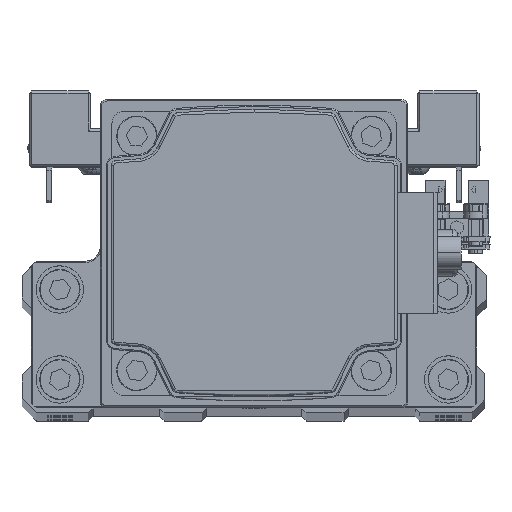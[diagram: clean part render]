
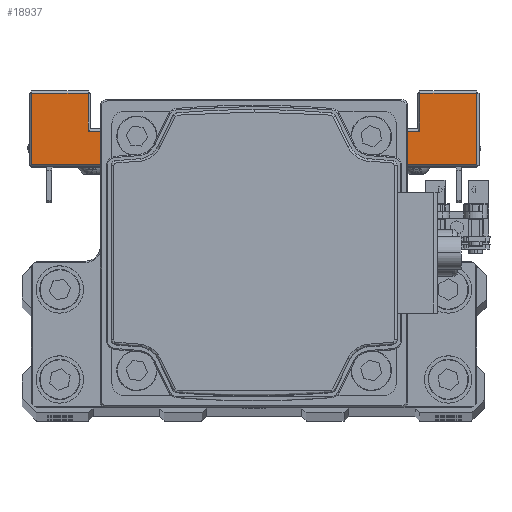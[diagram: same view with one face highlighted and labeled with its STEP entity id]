
A CAD part, top view. The second image highlights one B-rep face of the part: STEP entity #18937.
In plain terms, the highlighted planar face has unit normal (0, 0, 1) as drawn and (1, 0, 0) by its records, which use the part's own axes.
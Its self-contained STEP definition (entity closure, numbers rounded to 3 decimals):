
#62 = LINE ( 'NONE', #13595, #12709 ) ;
#311 = VERTEX_POINT ( 'NONE', #18056 ) ;
#332 = CARTESIAN_POINT ( 'NONE',  ( 47., 23., -20. ) ) ;
#531 = LINE ( 'NONE', #14053, #26017 ) ;
#848 = CARTESIAN_POINT ( 'NONE',  ( 47., 8., -20. ) ) ;
#2241 = VERTEX_POINT ( 'NONE', #29447 ) ;
#2433 = LINE ( 'NONE', #15939, #29425 ) ;
#2583 = LINE ( 'NONE', #16101, #42916 ) ;
#2674 = LINE ( 'NONE', #16198, #18468 ) ;
#2955 = CARTESIAN_POINT ( 'NONE',  ( 47., 8., -47. ) ) ;
#3281 = EDGE_CURVE ( 'NONE', #34185, #34260, #6783, .T. ) ;
#4917 = DIRECTION ( 'NONE',  ( 0., -1., 0. ) ) ;
#4931 = CARTESIAN_POINT ( 'NONE',  ( 47., 7.5, -20. ) ) ;
#4972 = VERTEX_POINT ( 'NONE', #37891 ) ;
#5853 = EDGE_CURVE ( 'NONE', #33569, #311, #38182, .T. ) ;
#6203 = CARTESIAN_POINT ( 'NONE',  ( 47., 7.5, -20. ) ) ;
#6245 = VERTEX_POINT ( 'NONE', #41244 ) ;
#6783 = LINE ( 'NONE', #20287, #13658 ) ;
#7651 = VECTOR ( 'NONE', #26162, 1000. ) ;
#7888 = CARTESIAN_POINT ( 'NONE',  ( 47., 15., -20. ) ) ;
#8700 = ORIENTED_EDGE ( 'NONE', *, *, #28669, .T. ) ;
#8780 = EDGE_CURVE ( 'NONE', #20748, #25673, #35214, .T. ) ;
#9457 = CARTESIAN_POINT ( 'NONE',  ( 47., 23., -35. ) ) ;
#12483 = EDGE_CURVE ( 'NONE', #6245, #25673, #2674, .T. ) ;
#12705 = CARTESIAN_POINT ( 'NONE',  ( 47., 23., -20. ) ) ;
#12709 = VECTOR ( 'NONE', #27038, 1000. ) ;
#13595 = CARTESIAN_POINT ( 'NONE',  ( 47., 7.5, 35. ) ) ;
#13642 = ORIENTED_EDGE ( 'NONE', *, *, #12483, .T. ) ;
#13658 = VECTOR ( 'NONE', #33762, 1000. ) ;
#13851 = DIRECTION ( 'NONE',  ( 0., 0., 1. ) ) ;
#13974 = CARTESIAN_POINT ( 'NONE',  ( 47., 23., -47. ) ) ;
#14053 = CARTESIAN_POINT ( 'NONE',  ( 47., 8., -47. ) ) ;
#14513 = ORIENTED_EDGE ( 'NONE', *, *, #5853, .T. ) ;
#15842 = CARTESIAN_POINT ( 'NONE',  ( 47., 15., -35. ) ) ;
#15939 = CARTESIAN_POINT ( 'NONE',  ( 47., 7.5, 47. ) ) ;
#16060 = LINE ( 'NONE', #29508, #39074 ) ;
#16101 = CARTESIAN_POINT ( 'NONE',  ( 47., 7.5, -47. ) ) ;
#16198 = CARTESIAN_POINT ( 'NONE',  ( 47., -7.5, -20. ) ) ;
#16342 = VECTOR ( 'NONE', #18442, 1000. ) ;
#16652 = CARTESIAN_POINT ( 'NONE',  ( 47., 8., 47. ) ) ;
#16757 = EDGE_CURVE ( 'NONE', #27737, #33569, #16060, .T. ) ;
#18015 = ORIENTED_EDGE ( 'NONE', *, *, #25388, .T. ) ;
#18056 = CARTESIAN_POINT ( 'NONE',  ( 47., 15., 35. ) ) ;
#18145 = EDGE_CURVE ( 'NONE', #2241, #4972, #30623, .T. ) ;
#18442 = DIRECTION ( 'NONE',  ( 0., -1., 0. ) ) ;
#18468 = VECTOR ( 'NONE', #29640, 1000. ) ;
#18937 = ADVANCED_FACE ( 'NONE', ( #23014 ), #36508, .F. ) ;
#19707 = DIRECTION ( 'NONE',  ( -1., 0., 0. ) ) ;
#20287 = CARTESIAN_POINT ( 'NONE',  ( 47., 8., 20. ) ) ;
#20748 = VERTEX_POINT ( 'NONE', #848 ) ;
#21385 = DIRECTION ( 'NONE',  ( 0., 0., 1. ) ) ;
#21711 = LINE ( 'NONE', #35196, #22703 ) ;
#21945 = VECTOR ( 'NONE', #21385, 1000. ) ;
#22335 = ORIENTED_EDGE ( 'NONE', *, *, #35293, .T. ) ;
#22703 = VECTOR ( 'NONE', #4917, 1000. ) ;
#23014 = FACE_OUTER_BOUND ( 'NONE', #26111, .T. ) ;
#25388 = EDGE_CURVE ( 'NONE', #34260, #6245, #21711, .T. ) ;
#25673 = VERTEX_POINT ( 'NONE', #30291 ) ;
#26017 = VECTOR ( 'NONE', #27505, 1000. ) ;
#26111 = EDGE_LOOP ( 'NONE', ( #35573, #39459, #34986, #22335, #26812, #14513, #8700, #31422, #35310, #30772, #18015, #13642 ) ) ;
#26162 = DIRECTION ( 'NONE',  ( 0., 0., 1. ) ) ;
#26812 = ORIENTED_EDGE ( 'NONE', *, *, #16757, .T. ) ;
#27038 = DIRECTION ( 'NONE',  ( 0., 1., 0. ) ) ;
#27505 = DIRECTION ( 'NONE',  ( 0., 0., -1. ) ) ;
#27737 = VERTEX_POINT ( 'NONE', #9457 ) ;
#28669 = EDGE_CURVE ( 'NONE', #311, #2241, #62, .T. ) ;
#29380 = DIRECTION ( 'NONE',  ( 0., -1., 0. ) ) ;
#29425 = VECTOR ( 'NONE', #29380, 1000. ) ;
#29447 = CARTESIAN_POINT ( 'NONE',  ( 47., 23., 35. ) ) ;
#29508 = CARTESIAN_POINT ( 'NONE',  ( 47., 7.5, -35. ) ) ;
#29548 = DIRECTION ( 'NONE',  ( 0., 1., 0. ) ) ;
#29640 = DIRECTION ( 'NONE',  ( 0., 0., -1. ) ) ;
#29818 = VERTEX_POINT ( 'NONE', #2955 ) ;
#30291 = CARTESIAN_POINT ( 'NONE',  ( 47., -7.5, -20. ) ) ;
#30623 = LINE ( 'NONE', #332, #38464 ) ;
#30772 = ORIENTED_EDGE ( 'NONE', *, *, #3281, .T. ) ;
#30980 = CARTESIAN_POINT ( 'NONE',  ( 47., 8., 20. ) ) ;
#31422 = ORIENTED_EDGE ( 'NONE', *, *, #18145, .T. ) ;
#31427 = AXIS2_PLACEMENT_3D ( 'NONE', #6203, #19707, #33189 ) ;
#32713 = EDGE_CURVE ( 'NONE', #4972, #34185, #2433, .T. ) ;
#33155 = EDGE_CURVE ( 'NONE', #29818, #37360, #2583, .T. ) ;
#33189 = DIRECTION ( 'NONE',  ( 0., 0., 1. ) ) ;
#33569 = VERTEX_POINT ( 'NONE', #15842 ) ;
#33762 = DIRECTION ( 'NONE',  ( 0., 0., -1. ) ) ;
#34185 = VERTEX_POINT ( 'NONE', #16652 ) ;
#34260 = VERTEX_POINT ( 'NONE', #30980 ) ;
#34986 = ORIENTED_EDGE ( 'NONE', *, *, #33155, .T. ) ;
#35196 = CARTESIAN_POINT ( 'NONE',  ( 47., 7.5, 20. ) ) ;
#35214 = LINE ( 'NONE', #4931, #16342 ) ;
#35293 = EDGE_CURVE ( 'NONE', #37360, #27737, #42979, .T. ) ;
#35310 = ORIENTED_EDGE ( 'NONE', *, *, #32713, .T. ) ;
#35573 = ORIENTED_EDGE ( 'NONE', *, *, #8780, .F. ) ;
#36508 = PLANE ( 'NONE',  #31427 ) ;
#37360 = VERTEX_POINT ( 'NONE', #13974 ) ;
#37891 = CARTESIAN_POINT ( 'NONE',  ( 47., 23., 47. ) ) ;
#38182 = LINE ( 'NONE', #7888, #21945 ) ;
#38464 = VECTOR ( 'NONE', #13851, 1000. ) ;
#39074 = VECTOR ( 'NONE', #43045, 1000. ) ;
#39459 = ORIENTED_EDGE ( 'NONE', *, *, #42631, .T. ) ;
#41244 = CARTESIAN_POINT ( 'NONE',  ( 47., -7.5, 20. ) ) ;
#42631 = EDGE_CURVE ( 'NONE', #20748, #29818, #531, .T. ) ;
#42916 = VECTOR ( 'NONE', #29548, 1000. ) ;
#42979 = LINE ( 'NONE', #12705, #7651 ) ;
#43045 = DIRECTION ( 'NONE',  ( 0., -1., 0. ) ) ;
